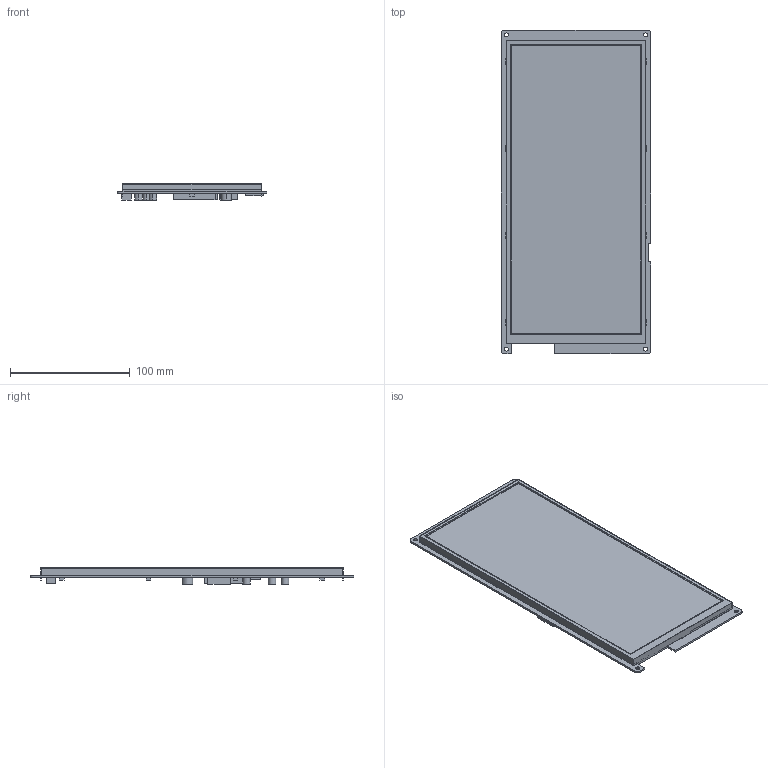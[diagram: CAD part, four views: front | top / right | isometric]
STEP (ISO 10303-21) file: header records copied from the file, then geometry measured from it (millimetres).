
FILE_DESCRIPTION((''),'2;1');
FILE_NAME('DMG16720C104-03WN','2021-12-23T',('Administrator'),(''),'PRO/ENGINEER BY PARAMETRIC TECHNOLOGY CORPORATION, 2011310','PRO/ENGINEER BY PARAMETRIC TECHNOLOGY CORPORATION, 2011310','');
FILE_SCHEMA(('CONFIG_CONTROL_DESIGN','SHAPE_APPEARANCE_LAYERS_GROUPS'));
Length unit declared in the file: millimetre
Products named in the file (1): DMG16720C104-03WN
Bounding box: 125 x 270 x 13.8 mm (x, y, z)
Volume: 193655.3 mm3; surface area: 140759.1 mm2
Topology: 1 solids, 1 shells, 215 faces, 638 edges, 412 vertices
Faces by surface type: plane 193, cylinder 22
Entity records: 8602 total; most frequent: ORIENTED_EDGE 1276, CARTESIAN_POINT 1266, DIRECTION 1114, EDGE_CURVE 638, VECTOR 594, LINE 594, VERTEX_POINT 412, AXIS2_PLACEMENT_3D 260
